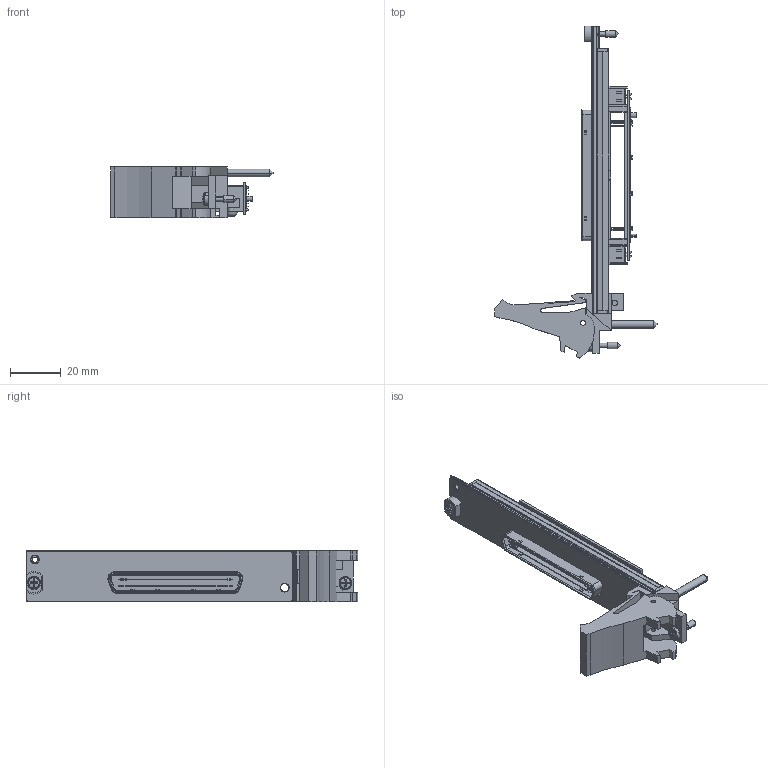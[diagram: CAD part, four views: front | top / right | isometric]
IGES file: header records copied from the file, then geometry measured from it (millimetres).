
Start section:  PTC IGES file: cu_pxi-2530.igs
Global section: file name: cu_pxi-2530.igs; native system: Pro/ENGINEER by Parametric Technology Corporation; preprocessor: 2006080; author: jjorden; organization: Unknown; date: 090901.134723; units: inch
Bounding box: 63.73 x 130.5 x 20.33 mm (x, y, z)
Surface area: 22040.3 mm2 (no closed solid volume)
Topology: 0 solids, 0 shells, 1286 faces, 6890 edges, 6882 vertices
Faces by surface type: bspline 963, revolution 323
